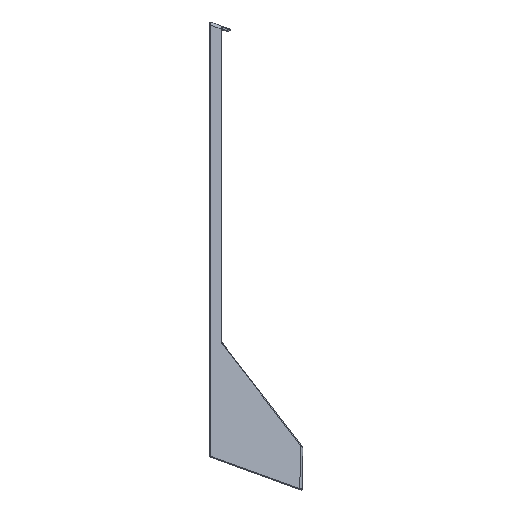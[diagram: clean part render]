
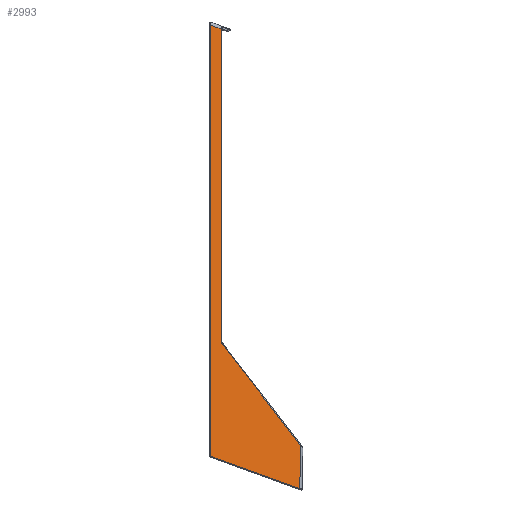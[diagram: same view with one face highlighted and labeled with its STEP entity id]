
A CAD part, front view. The second image highlights one B-rep face of the part: STEP entity #2993.
In plain terms, the highlighted planar face has unit normal (0.273, -0.962, 0).
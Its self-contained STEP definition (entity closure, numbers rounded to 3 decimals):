
#2993=ADVANCED_FACE('',(#7076),#5265,.T.);
#5265=PLANE('',#50625);
#7076=FACE_OUTER_BOUND('',#9888,.T.);
#9888=EDGE_LOOP('',(#20027,#20028,#20029,#20030,#20031,#20032,#20033));
#12932=ELLIPSE('',#49027,1.559,1.5);
#20027=ORIENTED_EDGE('',*,*,#36910,.T.);
#20028=ORIENTED_EDGE('',*,*,#34391,.T.);
#20029=ORIENTED_EDGE('',*,*,#34394,.T.);
#20030=ORIENTED_EDGE('',*,*,#34397,.T.);
#20031=ORIENTED_EDGE('',*,*,#36359,.T.);
#20032=ORIENTED_EDGE('',*,*,#34494,.T.);
#20033=ORIENTED_EDGE('',*,*,#34488,.T.);
#29841=VERTEX_POINT('',#67117);
#29842=VERTEX_POINT('',#67139);
#29844=VERTEX_POINT('',#67145);
#29846=VERTEX_POINT('',#67162);
#29908=VERTEX_POINT('',#67549);
#29911=VERTEX_POINT('',#67554);
#29916=VERTEX_POINT('',#67579);
#34391=EDGE_CURVE('',#29841,#29842,#41478,.T.);
#34394=EDGE_CURVE('',#29842,#29844,#12932,.T.);
#34397=EDGE_CURVE('',#29844,#29846,#41480,.T.);
#34488=EDGE_CURVE('',#29908,#29911,#41512,.T.);
#34494=EDGE_CURVE('',#29916,#29908,#41514,.T.);
#36359=EDGE_CURVE('',#29846,#29916,#42328,.T.);
#36910=EDGE_CURVE('',#29911,#29841,#42676,.T.);
#41478=LINE('',#67141,#45223);
#41480=LINE('',#67164,#45225);
#41512=LINE('',#67555,#45257);
#41514=LINE('',#67578,#45259);
#42328=LINE('',#76634,#46073);
#42676=LINE('',#78390,#46421);
#45223=VECTOR('',#53790,1.);
#45225=VECTOR('',#53802,1.);
#45257=VECTOR('',#53970,1.);
#45259=VECTOR('',#53982,1.);
#46073=VECTOR('',#57244,1.);
#46421=VECTOR('',#58188,1.);
#49027=AXIS2_PLACEMENT_3D('',#67147,#53796,#53797);
#50625=AXIS2_PLACEMENT_3D('',#78391,#58189,#58190);
#53790=DIRECTION('',(0.,0.,-1.));
#53796=DIRECTION('',(0.273,-0.962,0.));
#53797=DIRECTION('',(0.962,0.273,0.));
#53802=DIRECTION('',(0.908,0.258,-0.33));
#53970=DIRECTION('',(0.,0.,1.));
#53982=DIRECTION('',(-0.601,-0.171,0.78));
#57244=DIRECTION('',(0.017,0.005,1.));
#58188=DIRECTION('',(-0.908,-0.258,0.33));
#58189=DIRECTION('',(0.273,-0.962,0.));
#58190=DIRECTION('',(-0.962,-0.273,0.));
#67117=CARTESIAN_POINT('',(-32.705,-72.78,263.709));
#67139=CARTESIAN_POINT('',(-32.705,-72.78,-9.537));
#67141=CARTESIAN_POINT('',(-32.705,-72.78,-9.537));
#67145=CARTESIAN_POINT('',(-31.718,-72.499,-10.947));
#67147=CARTESIAN_POINT('',(-31.205,-72.354,-9.537));
#67162=CARTESIAN_POINT('',(24.315,-56.571,-31.341));
#67164=CARTESIAN_POINT('',(24.48,-56.525,-31.401));
#67549=CARTESIAN_POINT('',(-25.705,-70.79,61.644));
#67554=CARTESIAN_POINT('',(-25.705,-70.79,261.161));
#67555=CARTESIAN_POINT('',(-25.705,-70.79,261.029));
#67578=CARTESIAN_POINT('',(-25.643,-70.772,61.563));
#67579=CARTESIAN_POINT('',(24.794,-56.435,-3.892));
#76634=CARTESIAN_POINT('',(24.773,-56.441,-5.081));
#78390=CARTESIAN_POINT('',(-33.921,-73.125,264.152));
#78391=CARTESIAN_POINT('',(26.143,-56.052,-18.966));
